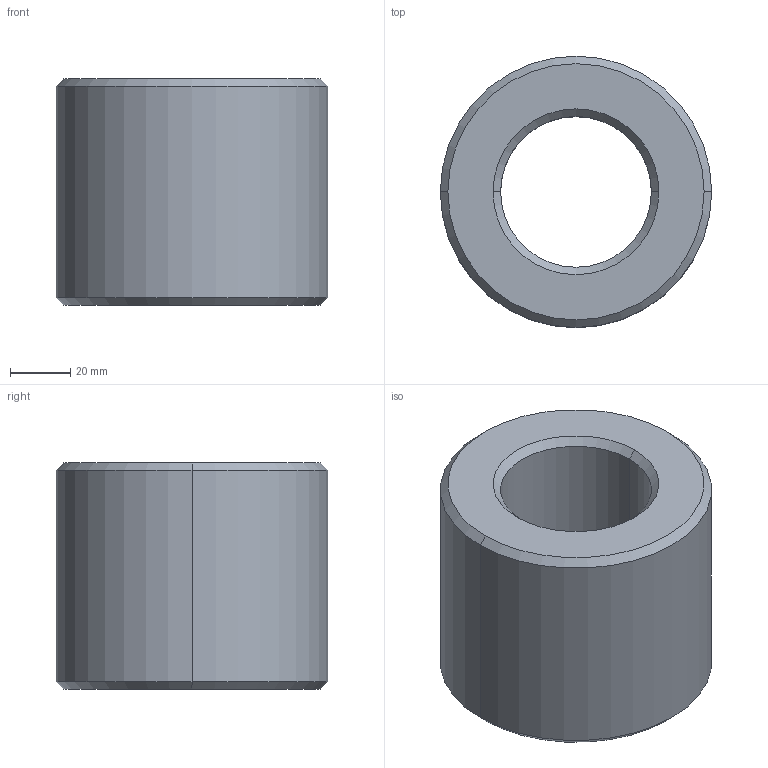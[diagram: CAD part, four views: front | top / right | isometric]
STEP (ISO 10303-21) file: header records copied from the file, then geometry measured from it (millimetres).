
FILE_DESCRIPTION (( 'STEP AP203' ), '1' );
FILE_NAME ('L1339.L50-08.step', '2024-10-24T14:07:06', ( '' ), ( '' ), 'SwSTEP 2.0', 'SolidWorks 2019', '' );
FILE_SCHEMA (( 'CONFIG_CONTROL_DESIGN' ));
Length unit declared in the file: millimetre
Products named in the file (1): L1339.L50-08
Bounding box: 90 x 90 x 75 mm (x, y, z)
Volume: 327118.3 mm3; surface area: 40495 mm2
Topology: 1 solids, 1 shells, 14 faces, 28 edges, 16 vertices
Faces by surface type: cone 8, cylinder 4, plane 2
Entity records: 445 total; most frequent: DIRECTION 74, CARTESIAN_POINT 59, ORIENTED_EDGE 56, AXIS2_PLACEMENT_3D 31, EDGE_CURVE 28, CIRCLE 16, VERTEX_POINT 16, EDGE_LOOP 16
